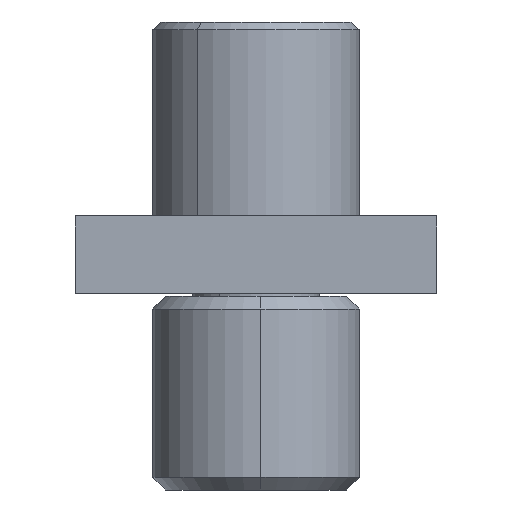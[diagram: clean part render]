
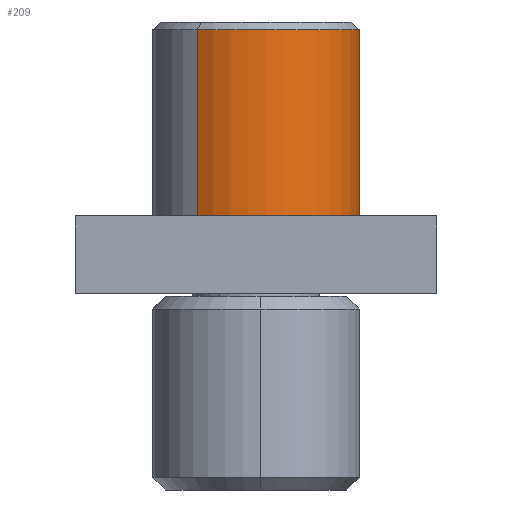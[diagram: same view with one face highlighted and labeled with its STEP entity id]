
A CAD part, left-side view. The second image highlights one B-rep face of the part: STEP entity #209.
In plain terms, the highlighted cylindrical face has radius 4 mm (diameter 8 mm), a partial arc.
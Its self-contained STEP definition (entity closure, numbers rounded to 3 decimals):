
#2 = CIRCLE ( 'NONE', #73, 4. ) ;
#9 = DIRECTION ( 'NONE',  ( 0., 0., -1. ) ) ;
#62 = EDGE_LOOP ( 'NONE', ( #1260, #251, #145, #1232 ) ) ;
#67 = CIRCLE ( 'NONE', #880, 4. ) ;
#73 = AXIS2_PLACEMENT_3D ( 'NONE', #402, #421, #396 ) ;
#145 = ORIENTED_EDGE ( 'NONE', *, *, #472, .T. ) ;
#181 = DIRECTION ( 'NONE',  ( 0., 1., 0. ) ) ;
#202 = LINE ( 'NONE', #470, #308 ) ;
#209 = ADVANCED_FACE ( 'NONE', ( #466 ), #431, .T. ) ;
#251 = ORIENTED_EDGE ( 'NONE', *, *, #931, .T. ) ;
#286 = EDGE_CURVE ( 'NONE', #509, #681, #2, .T. ) ;
#301 = CARTESIAN_POINT ( 'NONE',  ( 0., 0., -0.3 ) ) ;
#308 = VECTOR ( 'NONE', #1059, 1000. ) ;
#362 = VERTEX_POINT ( 'NONE', #855 ) ;
#363 = LINE ( 'NONE', #1140, #765 ) ;
#396 = DIRECTION ( 'NONE',  ( 0., 1., 0. ) ) ;
#402 = CARTESIAN_POINT ( 'NONE',  ( 0., 0., -7.5 ) ) ;
#412 = EDGE_CURVE ( 'NONE', #362, #509, #363, .T. ) ;
#421 = DIRECTION ( 'NONE',  ( 0., 0., -1. ) ) ;
#431 = CYLINDRICAL_SURFACE ( 'NONE', #513, 4. ) ;
#466 = FACE_OUTER_BOUND ( 'NONE', #62, .T. ) ;
#470 = CARTESIAN_POINT ( 'NONE',  ( 0., 4., -18.1 ) ) ;
#472 = EDGE_CURVE ( 'NONE', #1029, #681, #202, .T. ) ;
#509 = VERTEX_POINT ( 'NONE', #1011 ) ;
#513 = AXIS2_PLACEMENT_3D ( 'NONE', #736, #774, #739 ) ;
#673 = CARTESIAN_POINT ( 'NONE',  ( 0., 4., -0.3 ) ) ;
#681 = VERTEX_POINT ( 'NONE', #969 ) ;
#736 = CARTESIAN_POINT ( 'NONE',  ( 0., 0., -18.1 ) ) ;
#739 = DIRECTION ( 'NONE',  ( 0., 1., 0. ) ) ;
#765 = VECTOR ( 'NONE', #938, 1000. ) ;
#774 = DIRECTION ( 'NONE',  ( 0., 0., -1. ) ) ;
#855 = CARTESIAN_POINT ( 'NONE',  ( 0., -4., -0.3 ) ) ;
#880 = AXIS2_PLACEMENT_3D ( 'NONE', #301, #9, #181 ) ;
#931 = EDGE_CURVE ( 'NONE', #362, #1029, #67, .T. ) ;
#938 = DIRECTION ( 'NONE',  ( 0., 0., -1. ) ) ;
#969 = CARTESIAN_POINT ( 'NONE',  ( 0., 4., -7.5 ) ) ;
#1011 = CARTESIAN_POINT ( 'NONE',  ( 0., -4., -7.5 ) ) ;
#1029 = VERTEX_POINT ( 'NONE', #673 ) ;
#1059 = DIRECTION ( 'NONE',  ( 0., 0., -1. ) ) ;
#1140 = CARTESIAN_POINT ( 'NONE',  ( 0., -4., -18.1 ) ) ;
#1232 = ORIENTED_EDGE ( 'NONE', *, *, #286, .F. ) ;
#1260 = ORIENTED_EDGE ( 'NONE', *, *, #412, .F. ) ;
